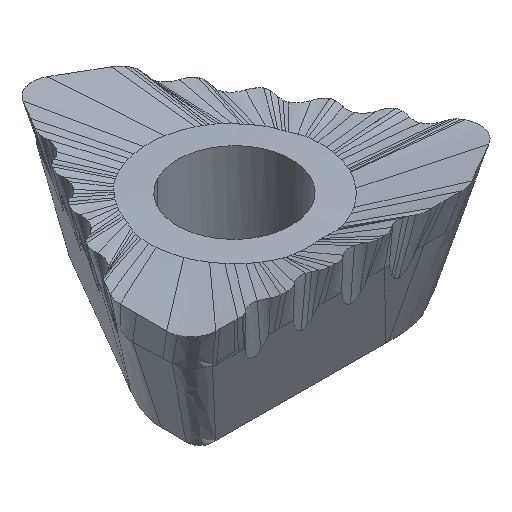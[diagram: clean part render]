
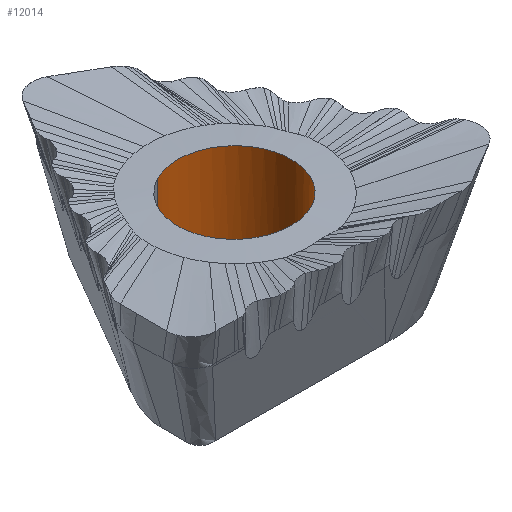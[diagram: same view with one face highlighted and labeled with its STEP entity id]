
A CAD part, isometric view. The second image highlights one B-rep face of the part: STEP entity #12014.
In plain terms, the highlighted cylindrical face has radius 1.9 mm (diameter 3.8 mm), a partial arc.
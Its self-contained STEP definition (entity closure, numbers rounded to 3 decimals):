
#12001=AXIS2_PLACEMENT_3D('Cylinder Axis2P3D',#11998,#11999,#12000) ;
#12005=AXIS2_PLACEMENT_3D('Circle Axis2P3D',#12003,#12004,$) ;
#2466=CARTESIAN_POINT('Control Point',(0.911,-1.667,3.812)) ;
#2467=CARTESIAN_POINT('Control Point',(1.407,-1.396,3.81)) ;
#2468=CARTESIAN_POINT('Control Point',(1.803,-0.94,3.811)) ;
#2469=CARTESIAN_POINT('Control Point',(2.003,-0.348,3.811)) ;
#2470=CARTESIAN_POINT('Control Point',(1.95,0.51,3.823)) ;
#2471=CARTESIAN_POINT('Control Point',(1.507,1.195,3.82)) ;
#2472=CARTESIAN_POINT('Control Point',(1.343,1.376,3.817)) ;
#2473=CARTESIAN_POINT('Control Point',(0.848,1.775,3.811)) ;
#2474=CARTESIAN_POINT('Control Point',(0.223,1.948,3.807)) ;
#2475=CARTESIAN_POINT('Control Point',(-0.183,1.952,3.806)) ;
#2476=CARTESIAN_POINT('Control Point',(-0.57,1.853,3.805)) ;
#2477=CARTESIAN_POINT('Control Point',(-0.911,1.667,3.805)) ;
#2478=CARTESIAN_POINT('Vertex',(0.911,-1.667,3.812)) ;
#2480=CARTESIAN_POINT('Vertex',(-0.911,1.667,3.805)) ;
#4030=CARTESIAN_POINT('Line Origine',(0.911,-1.667,3.5)) ;
#4034=CARTESIAN_POINT('Vertex',(0.911,-1.667,0.)) ;
#4041=CARTESIAN_POINT('Vertex',(-0.911,1.667,0.)) ;
#4044=CARTESIAN_POINT('Line Origine',(-0.911,1.667,3.5)) ;
#11998=CARTESIAN_POINT('Axis2P3D Location',(0.,0.,3.5)) ;
#12003=CARTESIAN_POINT('Axis2P3D Location',(0.,0.,0.)) ;
#4031=DIRECTION('Vector Direction',(0.,0.,1.)) ;
#4045=DIRECTION('Vector Direction',(0.,0.,1.)) ;
#11999=DIRECTION('Axis2P3D Direction',(0.,0.,1.)) ;
#12000=DIRECTION('Axis2P3D XDirection',(0.479,-0.878,0.)) ;
#12004=DIRECTION('Axis2P3D Direction',(0.,0.,1.)) ;
#4032=VECTOR('Line Direction',#4031,1.) ;
#4046=VECTOR('Line Direction',#4045,1.) ;
#12009=ORIENTED_EDGE('',*,*,#2482,.T.) ;
#12010=ORIENTED_EDGE('',*,*,#4048,.F.) ;
#12011=ORIENTED_EDGE('',*,*,#12007,.F.) ;
#12012=ORIENTED_EDGE('',*,*,#4036,.T.) ;
#12014=ADVANCED_FACE('CUT',(#12013),#12002,.F.) ;
#2465=B_SPLINE_CURVE_WITH_KNOTS('',5,(#2466,#2467,#2468,#2469,#2470,#2471,#2472,#2473,#2474,#2475,#2476,#2477),.UNSPECIFIED.,.F.,.U.,(6,3,3,6),(0.,4.,5.698,8.441),.UNSPECIFIED.) ;
#12006=CIRCLE('generated circle',#12005,1.9) ;
#12002=CYLINDRICAL_SURFACE('generated cylinder',#12001,1.9) ;
#2482=EDGE_CURVE('',#2479,#2481,#2465,.T.) ;
#4036=EDGE_CURVE('',#4035,#2479,#4033,.T.) ;
#4048=EDGE_CURVE('',#4042,#2481,#4047,.T.) ;
#12007=EDGE_CURVE('',#4035,#4042,#12006,.T.) ;
#12008=EDGE_LOOP('',(#12009,#12010,#12011,#12012)) ;
#12013=FACE_OUTER_BOUND('',#12008,.T.) ;
#4033=LINE('Line',#4030,#4032) ;
#4047=LINE('Line',#4044,#4046) ;
#2479=VERTEX_POINT('',#2478) ;
#2481=VERTEX_POINT('',#2480) ;
#4035=VERTEX_POINT('',#4034) ;
#4042=VERTEX_POINT('',#4041) ;
